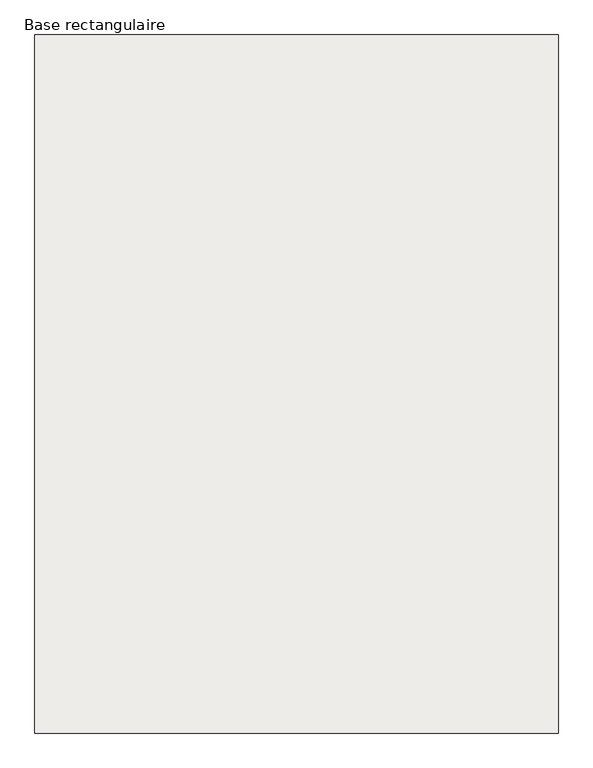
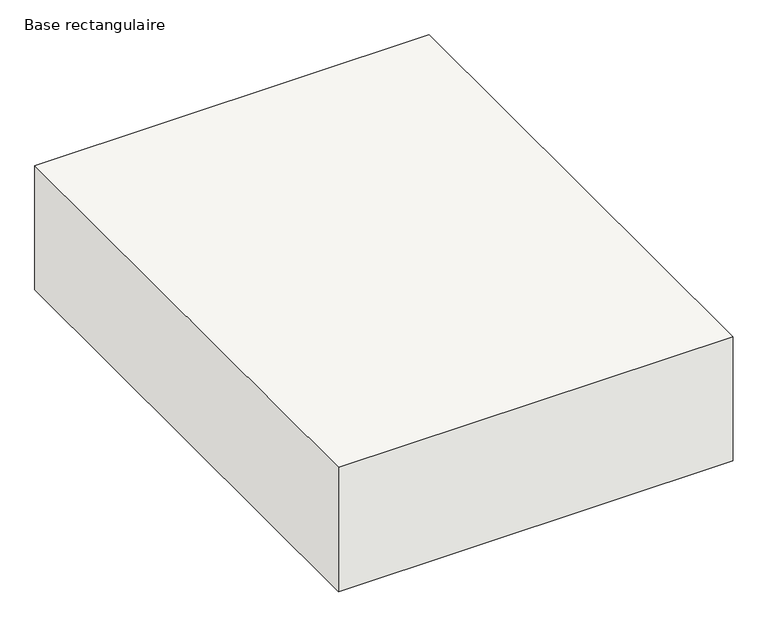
"""IFC4 building model written with IfcOpenShell, lengths in millimetres: slab geometry, Base rectangulaire : 90 x120x30 ht cm."""

from ifc_helpers import new_model, si_unit, frame, origin, place, context, project, spatial, polyline, outline, extrude, source, transform, mapped, element, save


def base_rectangulaire_90de8d64(model_context):
    return source(origin(), model_context, "Body", "SweptSolid", [
        extrude(outline(polyline([(450.0, 600.0), (450.0, -600.0), (-450.0, -600.0), (-450.0, 600.0), (450.0, 600.0)])), frame((0.0, 0.0, -300.0), z_axis=(0.0, 0.0, 1.0), x_axis=(1.0, 0.0, 0.0)), (0.0, 0.0, 1.0), 300.0),
        extrude(outline(polyline([(450.0, 600.0), (450.0, -600.0), (-450.0, -600.0), (-450.0, 600.0), (450.0, 600.0)])), frame((0.0, 0.0, -300.0), z_axis=(0.0, 0.0, 1.0), x_axis=(1.0, 0.0, 0.0)), (0.0, 0.0, 1.0), 300.0),
    ])


if __name__ == "__main__":
    model = new_model("IFC4")
    model_context = context("Model", 3, world=origin())
    ifc_project = project(units=[si_unit("LENGTHUNIT", "METRE", prefix="MILLI")], contexts=[model_context])
    site = spatial("IfcSite", under=ifc_project)
    building = spatial("IfcBuilding", under=site)
    placement = place(None, origin())
    base_rectangulaire_shape = base_rectangulaire_90de8d64(model_context)
    element("IfcSlab", 1, ObjectType="Base rectangulaire : 90 x120x30 ht cm", at=placement, inside=building, context=model_context, shape_type="MappedRepresentation", body=[
        mapped(base_rectangulaire_shape, transform((0.0, 0.0, 0.0), x_axis=(1.0, 0.0, 0.0), y_axis=(0.0, 1.0, 0.0), z_axis=(0.0, 0.0, 1.0))),
    ])
    save(model, "model.ifc")
